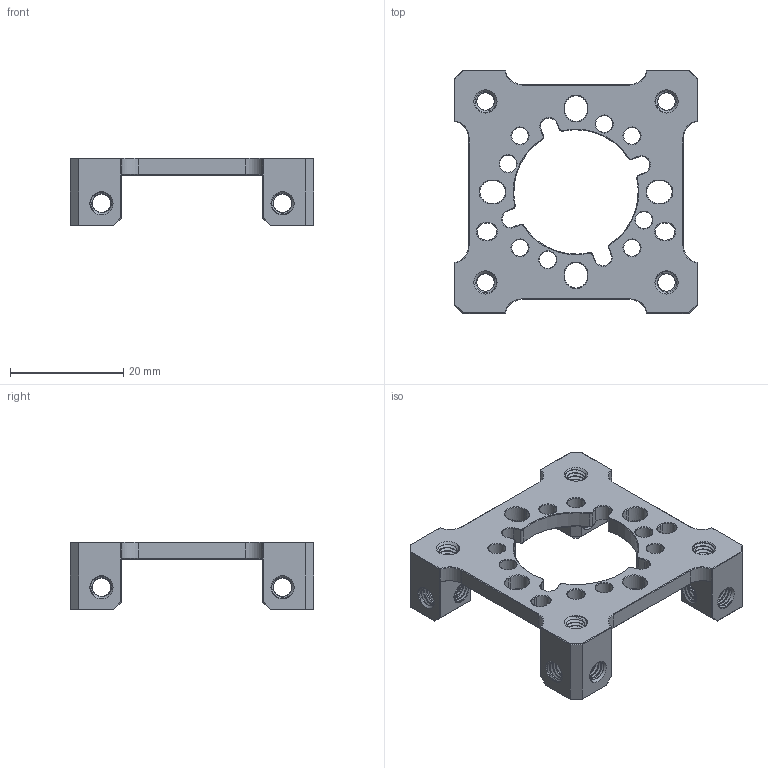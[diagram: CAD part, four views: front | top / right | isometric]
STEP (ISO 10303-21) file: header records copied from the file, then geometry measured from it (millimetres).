
FILE_DESCRIPTION(/* description */ ('','CAx-IF Rec.Pracs.---Representation and Presentation of Product Manufacturing Information (PMI)---4.0---2014-10-13'),/* implementation_level */ '2;1');
FILE_NAME(/* name */ '_1702-0043-0001.step',/* time_stamp */ '2024-11-26T11:53:29-06:00',/* author */ (''),/* organization */ (''),/* preprocessor_version */ 'ST-DEVELOPER v20',/* originating_system */ 'Autodesk Translation Framework v13.20.0.188',/* authorisation */ '');
FILE_SCHEMA (('AP242_MANAGED_MODEL_BASED_3D_ENGINEERING_MIM_LF { 1 0 10303 442 1 1 4 }'));
Products named in the file (1): 1702-0043-0001 Y2024
Bounding box: 43 x 43 x 12 mm (x, y, z)
Volume: 5002.4 mm3; surface area: 5720.5 mm2
Topology: 1 solids, 1 shells, 1270 faces, 3723 edges, 2431 vertices
Faces by surface type: cylinder 590, bspline 296, plane 258, cone 126
Full cylindrical faces by diameter (mm): 3 x8, 3.1 x36, 3.3 x46, 4 x88
Entity records: 375582 total; most frequent: CARTESIAN_POINT 347779, ORIENTED_EDGE 7446, DIRECTION 3780, EDGE_CURVE 3723, VERTEX_POINT 2431, B_SPLINE_CURVE_WITH_KNOTS 1686, AXIS2_PLACEMENT_3D 1400, EDGE_LOOP 1332
